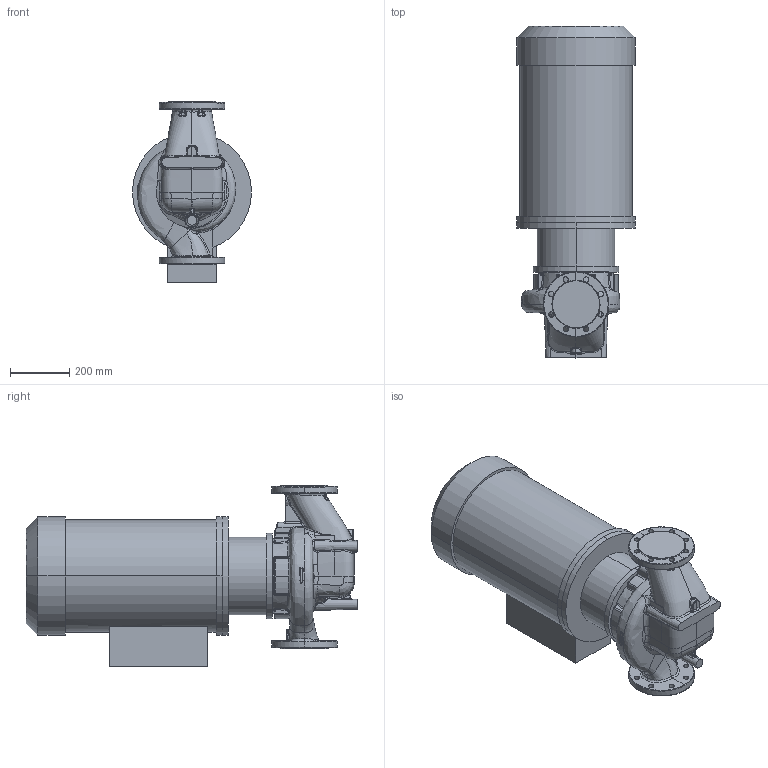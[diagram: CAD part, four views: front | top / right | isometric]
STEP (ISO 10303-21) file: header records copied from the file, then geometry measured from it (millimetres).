
FILE_DESCRIPTION (( 'STEP AP203' ), '1' );
FILE_NAME ('KRL 100-200-185_2-30.STEP', '2026-05-12T13:20:38', ( '' ), ( '' ), 'SwSTEP 2.0', 'SolidWorks 2016', '' );
FILE_SCHEMA (( 'CONFIG_CONTROL_DESIGN' ));
Length unit declared in the file: millimetre
Products named in the file (1): KRL 100-200-185_2-30
Bounding box: 400 x 1115.8 x 610 mm (x, y, z)
Volume: 113230888.6 mm3; surface area: 2371213.7 mm2
Topology: 4 solids, 4 shells, 785 faces, 1887 edges, 1096 vertices
Faces by surface type: bspline 397, cylinder 180, plane 106, sphere 39, torus 33, cone 30
Entity records: 62086 total; most frequent: CARTESIAN_POINT 47356, ORIENTED_EDGE 3704, DIRECTION 2226, EDGE_CURVE 1852, VERTEX_POINT 1094, AXIS2_PLACEMENT_3D 964, EDGE_LOOP 836, ADVANCED_FACE 785
